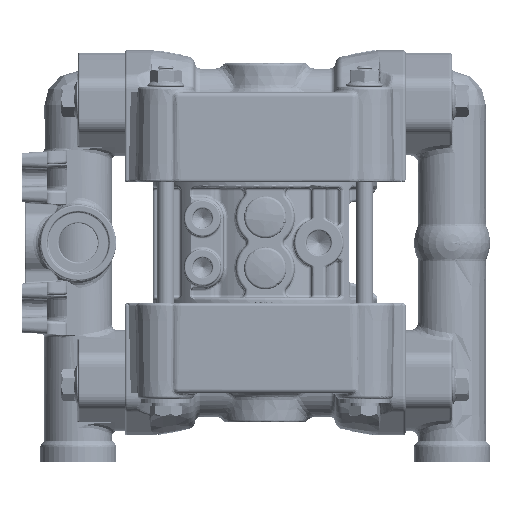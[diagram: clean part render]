
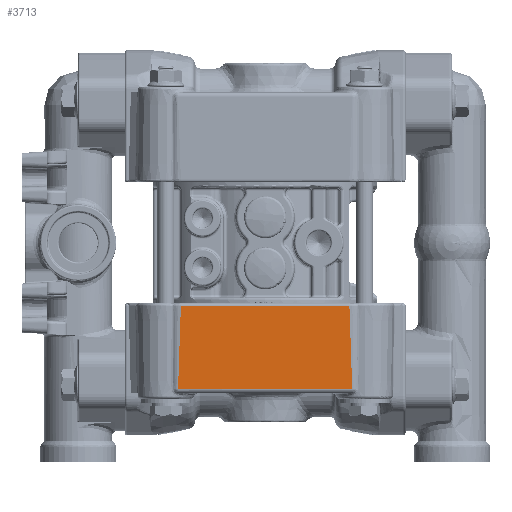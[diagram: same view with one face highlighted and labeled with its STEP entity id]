
A CAD part, front view. The second image highlights one B-rep face of the part: STEP entity #3713.
In plain terms, the highlighted planar face has unit normal (0, -1, -0.018).
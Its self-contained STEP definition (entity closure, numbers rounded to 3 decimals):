
#3713 = ADVANCED_FACE ( 'NONE', ( #233050 ), #164515, .F. ) ;
#11364 = DIRECTION ( 'NONE',  ( 0., 1., 0.017 ) ) ;
#14352 = EDGE_CURVE ( 'NONE', #152674, #130623, #272033, .T. ) ;
#23084 = DIRECTION ( 'NONE',  ( 1., 0., 0. ) ) ;
#32279 = CARTESIAN_POINT ( 'NONE',  ( -30.986, -46.026, -52.026 ) ) ;
#42675 = CARTESIAN_POINT ( 'NONE',  ( 29.978, -46.541, -22.517 ) ) ;
#42890 = EDGE_CURVE ( 'NONE', #270413, #152674, #149399, .T. ) ;
#51843 = VECTOR ( 'NONE', #294869, 1000. ) ;
#68396 = ORIENTED_EDGE ( 'NONE', *, *, #14352, .F. ) ;
#76493 = AXIS2_PLACEMENT_3D ( 'NONE', #260808, #11364, #109124 ) ;
#86449 = ORIENTED_EDGE ( 'NONE', *, *, #239259, .F. ) ;
#95721 = EDGE_CURVE ( 'NONE', #314867, #270413, #231994, .T. ) ;
#109124 = DIRECTION ( 'NONE',  ( 0., -0.017, 1. ) ) ;
#130623 = VERTEX_POINT ( 'NONE', #313188 ) ;
#132544 = CARTESIAN_POINT ( 'NONE',  ( 29.978, -46.541, -22.517 ) ) ;
#137328 = VECTOR ( 'NONE', #23084, 1000. ) ;
#142635 = VECTOR ( 'NONE', #267288, 1000. ) ;
#149399 = LINE ( 'NONE', #224410, #288993 ) ;
#152674 = VERTEX_POINT ( 'NONE', #32279 ) ;
#164515 = PLANE ( 'NONE',  #76493 ) ;
#195410 = CARTESIAN_POINT ( 'NONE',  ( -30.986, -46.026, -52.026 ) ) ;
#196752 = DIRECTION ( 'NONE',  ( -1., 0., 0. ) ) ;
#210699 = CARTESIAN_POINT ( 'NONE',  ( 29.978, -46.541, -22.517 ) ) ;
#211385 = CARTESIAN_POINT ( 'NONE',  ( 30.986, -46.026, -52.026 ) ) ;
#224410 = CARTESIAN_POINT ( 'NONE',  ( -32.226, -46.026, -52.026 ) ) ;
#231994 = LINE ( 'NONE', #132544, #142635 ) ;
#233050 = FACE_OUTER_BOUND ( 'NONE', #294378, .T. ) ;
#239259 = EDGE_CURVE ( 'NONE', #130623, #314867, #266056, .T. ) ;
#260808 = CARTESIAN_POINT ( 'NONE',  ( -32.226, -46.551, -21.927 ) ) ;
#266056 = LINE ( 'NONE', #42675, #137328 ) ;
#267288 = DIRECTION ( 'NONE',  ( 0.034, 0.017, -0.999 ) ) ;
#270413 = VERTEX_POINT ( 'NONE', #211385 ) ;
#272033 = LINE ( 'NONE', #195410, #51843 ) ;
#288261 = ORIENTED_EDGE ( 'NONE', *, *, #42890, .F. ) ;
#288993 = VECTOR ( 'NONE', #196752, 1000. ) ;
#294378 = EDGE_LOOP ( 'NONE', ( #300217, #86449, #68396, #288261 ) ) ;
#294869 = DIRECTION ( 'NONE',  ( 0.034, -0.017, 0.999 ) ) ;
#300217 = ORIENTED_EDGE ( 'NONE', *, *, #95721, .F. ) ;
#313188 = CARTESIAN_POINT ( 'NONE',  ( -29.978, -46.541, -22.517 ) ) ;
#314867 = VERTEX_POINT ( 'NONE', #210699 ) ;
